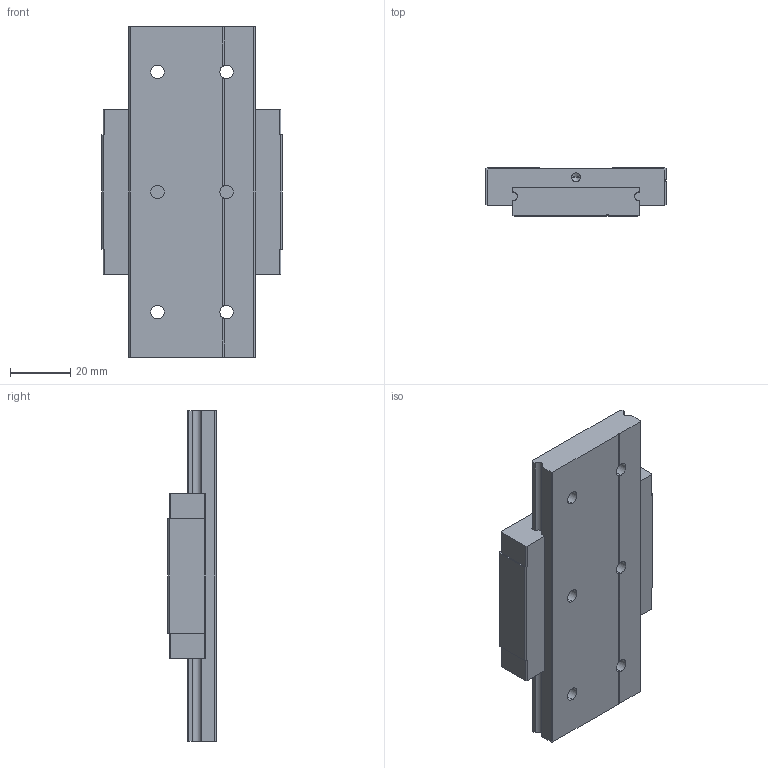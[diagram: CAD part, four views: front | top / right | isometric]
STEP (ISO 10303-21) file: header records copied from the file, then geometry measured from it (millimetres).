
FILE_DESCRIPTION((''),'2;1');
FILE_NAME('MGW15C_ASM','2008-07-11T',('minyao'),(''),'PRO/ENGINEER BY PARAMETRIC TECHNOLOGY CORPORATION, 2004360','PRO/ENGINEER BY PARAMETRIC TECHNOLOGY CORPORATION, 2004360','');
FILE_SCHEMA(('CONFIG_CONTROL_DESIGN'));
Length unit declared in the file: millimetre
Products named in the file (4): MANIFOLD_SOLID_BREP_39; MANIFOLD_SOLID_BREP_40; SAND94F7H944_ASM; MGW15C_ASM
Assembly tree (3 placements, depth 3):
  MGW15C_ASM
    SAND94F7H944_ASM
      MANIFOLD_SOLID_BREP_39
      MANIFOLD_SOLID_BREP_40
Bounding box: 60 x 16 x 110 mm (x, y, z)
Volume: 67874.9 mm3; surface area: 23410 mm2
Topology: 2 solids, 2 shells, 113 faces, 321 edges, 209 vertices
Faces by surface type: plane 56, cylinder 45, cone 12
Entity records: 3812 total; most frequent: CARTESIAN_POINT 694, DIRECTION 652, ORIENTED_EDGE 618, EDGE_CURVE 309, AXIS2_PLACEMENT_3D 227, VERTEX_POINT 209, VECTOR 198, LINE 198
